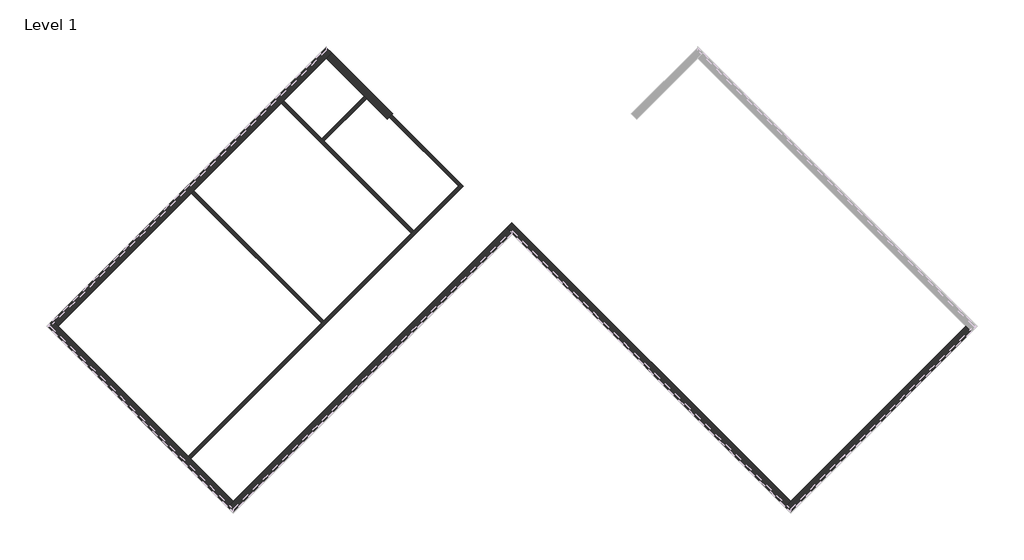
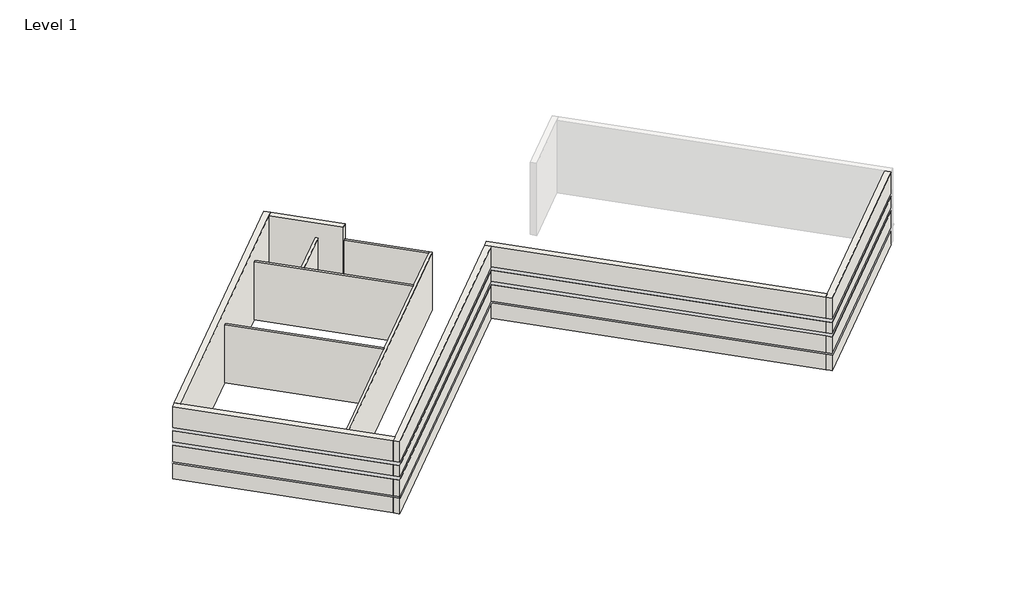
# One storey, part 1 of 2: 11 walls.
"""IFC4 building model written with IfcOpenShell, lengths in millimetres."""

from ifc_helpers import new_model, si_unit, point, frame, frame_2d, origin, origin_with_axes, place, context, project, spatial, polyline, circle_curve, trimmed, segment, composite_curve, outline, extrude, faceted_brep, element, save
from ifc_brep_helpers import plane_surface, cylinder_surface, revolved_surface, advanced_brep

model = new_model("IFC4")

# Units and contexts
model_context = context("Model", 3, world=origin())
ifc_project = project(units=[si_unit("LENGTHUNIT", "METRE", prefix="MILLI")], contexts=[model_context])

# Site, building, storey
site = spatial("IfcSite", under=ifc_project)
building = spatial("IfcBuilding", under=site)
storey = spatial("IfcBuildingStorey", under=building, Name="Level 1", Elevation=0.0)

# Walls
placement = place(None, origin())
element("IfcWall", 1, ObjectType="Exterior - Split Face and CMU on Mtl. Stud", at=placement, inside=storey, context=model_context, shape_type="Brep", body=[
    faceted_brep([(17611.1998802, -1988.4758079, 0.0), (9488.5582187, -10111.1174694, 0.0), (9239.3561114, -10360.3195767, 0.0), (9239.3561114, -10360.3195767, 1016.0), (9304.4629682, -10295.2127199, 1016.0), (9304.4629682, -10295.2127199, 1085.85), (9239.3561114, -10360.3195767, 1085.85), (9239.3561114, -10360.3195767, 2133.6), (9304.4629682, -10295.2127199, 2133.6), (9304.4629682, -10295.2127199, 2336.8), (9239.3561114, -10360.3195767, 2336.8), (9239.3561114, -10360.3195767, 3048.0), (9304.4629682, -10295.2127199, 3048.0), (9304.4629682, -10295.2127199, 3251.2), (9239.3561114, -10360.3195767, 3251.2), (9239.3561114, -10360.3195767, 4572.0), (9488.5582187, -10111.1174694, 4572.0), (17611.1998802, -1988.4758079, 4572.0), (17860.4019876, -2237.6779152, 4572.0), (9488.5582187, -10609.5216841, 4572.0), (9488.5582187, -10609.5216841, 3251.2), (17860.4019876, -2237.6779152, 3251.2), (9488.5582187, -10609.5216841, 0.0), (17860.4019876, -2237.6779152, 0.0), (17860.4019876, -2237.6779152, 1016.0), (9488.5582187, -10609.5216841, 1016.0), (9488.5582187, -10609.5216841, 1085.85), (17860.4019876, -2237.6779152, 1085.85), (17860.4019876, -2237.6779152, 2133.6), (9488.5582187, -10609.5216841, 2133.6), (9488.5582187, -10609.5216841, 2336.8), (17860.4019876, -2237.6779152, 2336.8), (17860.4019876, -2237.6779152, 3048.0), (9488.5582187, -10609.5216841, 3048.0), (17795.2951307, -2172.5710583, 0.0), (9423.4513619, -10544.4148272, 0.0), (9488.5582187, -10479.3079703, 1016.0), (17795.2951307, -2172.5710583, 1016.0), (17795.2951307, -2172.5710583, 1085.85), (9488.5582187, -10479.3079703, 1085.85), (9488.5582187, -10479.3079703, 2133.6), (17795.2951307, -2172.5710583, 2133.6), (17795.2951307, -2172.5710583, 2336.8), (9488.5582187, -10479.3079703, 2336.8), (9488.5582187, -10479.3079703, 3251.2), (9488.5582187, -10479.3079703, 3048.0), (17795.2951307, -2172.5710583, 3048.0), (17795.2951307, -2172.5710583, 3251.2)], [[[0, 1, 2, 3, 4, 5, 6, 7, 8, 9, 10, 11, 12, 13, 14, 15, 16, 17]], [[18, 19, 20, 21]], [[22, 23, 24, 25]], [[26, 27, 28, 29]], [[30, 31, 32, 33]], [[17, 16, 15, 19, 18]], [[2, 1, 0, 34, 35]], [[36, 37, 38, 39]], [[40, 41, 42, 43]], [[44, 45, 46, 47]], [[0, 17, 18, 21, 47, 46, 32, 31, 42, 41, 28, 27, 38, 37, 24, 23, 34]], [[23, 22, 35, 34]], [[39, 38, 27, 26, 6, 5]], [[37, 36, 4, 3, 25, 24]], [[41, 40, 8, 7, 29, 28]], [[43, 42, 31, 30, 10, 9]], [[46, 45, 12, 11, 33, 32]], [[13, 44, 47, 21, 20, 14]], [[19, 15, 14, 20]], [[2, 35, 22, 25, 3]], [[6, 26, 29, 7]], [[10, 30, 33, 11]], [[36, 39, 5, 4]], [[40, 43, 9, 8]], [[45, 44, 13, 12]]]),
])
element("IfcWall", 2, ObjectType="Exterior - Split Face and CMU on Mtl. Stud", at=placement, inside=storey, context=model_context, shape_type="Brep", body=[
    faceted_brep([(9488.5582187, -10111.1174694, 0.0), (-3443.0105956, 2820.451345, 0.0), (-3443.0105956, 2820.451345, 4572.0), (9488.5582187, -10111.1174694, 4572.0), (9239.3561114, -10360.3195767, 4572.0), (-3443.0105956, 2322.0471303, 4572.0), (-3692.212703, 2571.2492376, 4572.0), (-3692.212703, 2571.2492376, 0.0), (-3443.0105956, 2322.0471303, 0.0), (9239.3561114, -10360.3195767, 0.0), (9239.3561114, -10360.3195767, 1016.0), (-3443.0105956, 2322.0471303, 1016.0), (-3508.1174525, 2387.1539871, 1016.0), (-3508.1174525, 2387.1539871, 1085.85), (-3443.0105956, 2322.0471303, 1085.85), (9239.3561114, -10360.3195767, 1085.85), (9239.3561114, -10360.3195767, 2133.6), (-3443.0105956, 2322.0471303, 2133.6), (-3508.1174525, 2387.1539871, 2133.6), (-3508.1174525, 2387.1539871, 2336.8), (-3443.0105956, 2322.0471303, 2336.8), (9239.3561114, -10360.3195767, 2336.8), (9239.3561114, -10360.3195767, 3048.0), (-3443.0105956, 2322.0471303, 3048.0), (-3508.1174525, 2387.1539871, 3048.0), (-3508.1174525, 2387.1539871, 3251.2), (-3443.0105956, 2322.0471303, 3251.2), (9239.3561114, -10360.3195767, 3251.2), (9304.4629682, -10295.2127199, 0.0), (-3627.1058461, 2636.3560945, 0.0), (-3443.0105956, 2452.260844, 1016.0), (9304.4629682, -10295.2127199, 1016.0), (9304.4629682, -10295.2127199, 1085.85), (-3443.0105956, 2452.260844, 1085.85), (-3443.0105956, 2452.260844, 2133.6), (9304.4629682, -10295.2127199, 2133.6), (9304.4629682, -10295.2127199, 2336.8), (-3443.0105956, 2452.260844, 2336.8), (-3443.0105956, 2452.260844, 3251.2), (-3443.0105956, 2452.260844, 3048.0), (9304.4629682, -10295.2127199, 3048.0), (9304.4629682, -10295.2127199, 3251.2)], [[[0, 1, 2, 3]], [[4, 5, 6, 7, 8, 9, 10, 11, 12, 13, 14, 15, 16, 17, 18, 19, 20, 21, 22, 23, 24, 25, 26, 27]], [[3, 2, 6, 5, 4]], [[1, 0, 28, 29]], [[30, 31, 32, 33]], [[34, 35, 36, 37]], [[38, 39, 40, 41]], [[0, 3, 4, 27, 41, 40, 22, 21, 36, 35, 16, 15, 32, 31, 10, 9, 28]], [[9, 8, 7, 29, 28]], [[33, 32, 15, 14, 13]], [[31, 30, 12, 11, 10]], [[35, 34, 18, 17, 16]], [[37, 36, 21, 20, 19]], [[40, 39, 24, 23, 22]], [[25, 38, 41, 27, 26]], [[2, 1, 29, 7, 6]], [[30, 33, 13, 12]], [[34, 37, 19, 18]], [[39, 38, 25, 24]]]),
])
element("IfcWall", 3, ObjectType="Exterior - Split Face and CMU on Mtl. Stud", at=placement, inside=storey, context=model_context, shape_type="Brep", body=[
    faceted_brep([(-3692.212703, 2571.2492376, 0.0), (-16374.5794099, -10111.1174694, 0.0), (-16623.7815173, -10360.3195767, 0.0), (-16623.7815173, -10360.3195767, 1016.0), (-16558.6746604, -10295.2127199, 1016.0), (-16558.6746604, -10295.2127199, 1085.85), (-16623.7815173, -10360.3195767, 1085.85), (-16623.7815173, -10360.3195767, 2133.6), (-16558.6746604, -10295.2127199, 2133.6), (-16558.6746604, -10295.2127199, 2336.8), (-16623.7815173, -10360.3195767, 2336.8), (-16623.7815173, -10360.3195767, 3048.0), (-16558.6746604, -10295.2127199, 3048.0), (-16558.6746604, -10295.2127199, 3251.2), (-16623.7815173, -10360.3195767, 3251.2), (-16623.7815173, -10360.3195767, 4572.0), (-16374.5794099, -10111.1174694, 4572.0), (-3692.212703, 2571.2492376, 4572.0), (-3443.0105956, 2322.0471303, 4572.0), (-16374.5794099, -10609.5216841, 4572.0), (-16374.5794099, -10609.5216841, 3251.2), (-3443.0105956, 2322.0471303, 3251.2), (-16374.5794099, -10609.5216841, 0.0), (-3443.0105956, 2322.0471303, 0.0), (-3443.0105956, 2322.0471303, 1016.0), (-16374.5794099, -10609.5216841, 1016.0), (-16374.5794099, -10609.5216841, 1085.85), (-3443.0105956, 2322.0471303, 1085.85), (-3443.0105956, 2322.0471303, 2133.6), (-16374.5794099, -10609.5216841, 2133.6), (-16374.5794099, -10609.5216841, 2336.8), (-3443.0105956, 2322.0471303, 2336.8), (-3443.0105956, 2322.0471303, 3048.0), (-16374.5794099, -10609.5216841, 3048.0), (-3508.1174525, 2387.1539871, 0.0), (-16439.6862668, -10544.4148272, 0.0), (-16374.5794099, -10479.3079703, 1016.0), (-3508.1174525, 2387.1539871, 1016.0), (-3508.1174525, 2387.1539871, 1085.85), (-16374.5794099, -10479.3079703, 1085.85), (-16374.5794099, -10479.3079703, 2133.6), (-3508.1174525, 2387.1539871, 2133.6), (-3508.1174525, 2387.1539871, 2336.8), (-16374.5794099, -10479.3079703, 2336.8), (-16374.5794099, -10479.3079703, 3251.2), (-16374.5794099, -10479.3079703, 3048.0), (-3508.1174525, 2387.1539871, 3048.0), (-3508.1174525, 2387.1539871, 3251.2)], [[[0, 1, 2, 3, 4, 5, 6, 7, 8, 9, 10, 11, 12, 13, 14, 15, 16, 17]], [[18, 19, 20, 21]], [[22, 23, 24, 25]], [[26, 27, 28, 29]], [[30, 31, 32, 33]], [[17, 16, 15, 19, 18]], [[2, 1, 0, 34, 35]], [[36, 37, 38, 39]], [[40, 41, 42, 43]], [[44, 45, 46, 47]], [[0, 17, 18, 21, 47, 46, 32, 31, 42, 41, 28, 27, 38, 37, 24, 23, 34]], [[23, 22, 35, 34]], [[39, 38, 27, 26, 6, 5]], [[37, 36, 4, 3, 25, 24]], [[41, 40, 8, 7, 29, 28]], [[43, 42, 31, 30, 10, 9]], [[46, 45, 12, 11, 33, 32]], [[13, 44, 47, 21, 20, 14]], [[19, 15, 14, 20]], [[2, 35, 22, 25, 3]], [[6, 26, 29, 7]], [[10, 30, 33, 11]], [[36, 39, 5, 4]], [[40, 43, 9, 8]], [[45, 44, 13, 12]]]),
])
element("IfcWall", 4, ObjectType="Exterior - Split Face and CMU on Mtl. Stud", at=placement, inside=storey, context=model_context, shape_type="Brep", body=[
    faceted_brep([(-16374.5794099, -10111.1174694, 0.0), (-18350.2357566, -8135.4611227, 0.0), (-18460.2438941, -8025.4529853, 0.0), (-24497.2210715, -1988.4758079, 0.0), (-24746.4231788, -1739.2737005, 0.0), (-24746.4231788, -1739.2737005, 1016.0), (-24681.3163219, -1804.3805574, 1016.0), (-24681.3163219, -1804.3805574, 1085.85), (-24746.4231788, -1739.2737005, 1085.85), (-24746.4231788, -1739.2737005, 2133.6), (-24681.3163219, -1804.3805574, 2133.6), (-24681.3163219, -1804.3805574, 2336.8), (-24746.4231788, -1739.2737005, 2336.8), (-24746.4231788, -1739.2737005, 3048.0), (-24681.3163219, -1804.3805574, 3048.0), (-24681.3163219, -1804.3805574, 3251.2), (-24746.4231788, -1739.2737005, 3251.2), (-24746.4231788, -1739.2737005, 4572.0), (-24497.2210715, -1988.4758079, 4572.0), (-16374.5794099, -10111.1174694, 4572.0), (-16623.7815173, -10360.3195767, 4572.0), (-24995.6252862, -1988.4758079, 4572.0), (-24995.6252862, -1988.4758079, 3251.2), (-16623.7815173, -10360.3195767, 3251.2), (-24995.6252862, -1988.4758079, 0.0), (-16623.7815173, -10360.3195767, 0.0), (-16623.7815173, -10360.3195767, 1016.0), (-24995.6252862, -1988.4758079, 1016.0), (-24995.6252862, -1988.4758079, 1085.85), (-16623.7815173, -10360.3195767, 1085.85), (-16623.7815173, -10360.3195767, 2133.6), (-24995.6252862, -1988.4758079, 2133.6), (-24995.6252862, -1988.4758079, 2336.8), (-16623.7815173, -10360.3195767, 2336.8), (-16623.7815173, -10360.3195767, 3048.0), (-24995.6252862, -1988.4758079, 3048.0), (-16558.6746604, -10295.2127199, 0.0), (-24930.5184293, -1923.368951, 0.0), (-24865.4115724, -1988.4758079, 1016.0), (-16558.6746604, -10295.2127199, 1016.0), (-16558.6746604, -10295.2127199, 1085.85), (-24865.4115724, -1988.4758079, 1085.85), (-24865.4115724, -1988.4758079, 2133.6), (-16558.6746604, -10295.2127199, 2133.6), (-16558.6746604, -10295.2127199, 2336.8), (-24865.4115724, -1988.4758079, 2336.8), (-24865.4115724, -1988.4758079, 3251.2), (-24865.4115724, -1988.4758079, 3048.0), (-16558.6746604, -10295.2127199, 3048.0), (-16558.6746604, -10295.2127199, 3251.2)], [[[0, 1, 2, 3, 4, 5, 6, 7, 8, 9, 10, 11, 12, 13, 14, 15, 16, 17, 18, 19]], [[20, 21, 22, 23]], [[24, 25, 26, 27]], [[28, 29, 30, 31]], [[32, 33, 34, 35]], [[19, 18, 17, 21, 20]], [[4, 3, 2, 1, 0, 36, 37]], [[38, 39, 40, 41]], [[42, 43, 44, 45]], [[46, 47, 48, 49]], [[0, 19, 20, 23, 49, 48, 34, 33, 44, 43, 30, 29, 40, 39, 26, 25, 36]], [[25, 24, 37, 36]], [[41, 40, 29, 28, 8, 7]], [[39, 38, 6, 5, 27, 26]], [[43, 42, 10, 9, 31, 30]], [[45, 44, 33, 32, 12, 11]], [[48, 47, 14, 13, 35, 34]], [[15, 46, 49, 23, 22, 16]], [[21, 17, 16, 22]], [[4, 37, 24, 27, 5]], [[8, 28, 31, 9]], [[12, 32, 35, 13]], [[38, 41, 7, 6]], [[42, 45, 11, 10]], [[47, 46, 15, 14]]]),
])
element("IfcWall", 5, ObjectType="Exterior - Split Face and CMU on Mtl. Stud", at=placement, inside=storey, context=model_context, shape_type="Brep", body=[
    faceted_brep([(-24497.2210715, -1988.4758079, 0.0), (-18318.8048602, 4189.9404034, 0.0), (-18208.7967227, 4299.9485409, 0.0), (-14149.720956, 8359.0243076, 0.0), (-14039.7128185, 8469.0324451, 0.0), (-12064.0564718, 10444.6887918, 0.0), (-11814.8543645, 10693.8908991, 0.0), (-11814.8543645, 10693.8908991, 1016.0), (-11879.9612214, 10628.7840422, 1016.0), (-11879.9612214, 10628.7840422, 1085.85), (-11814.8543645, 10693.8908991, 1085.85), (-11814.8543645, 10693.8908991, 2133.6), (-11879.9612214, 10628.7840422, 2133.6), (-11879.9612214, 10628.7840422, 2336.8), (-11814.8543645, 10693.8908991, 2336.8), (-11814.8543645, 10693.8908991, 3048.0), (-11879.9612214, 10628.7840422, 3048.0), (-11879.9612214, 10628.7840422, 3251.2), (-11814.8543645, 10693.8908991, 3251.2), (-11814.8543645, 10693.8908991, 4572.0), (-12064.0564718, 10444.6887918, 4572.0), (-24497.2210715, -1988.4758079, 4572.0), (-24746.4231788, -1739.2737005, 4572.0), (-12064.0564718, 10943.0930065, 4572.0), (-12064.0564718, 10943.0930065, 3251.2), (-24746.4231788, -1739.2737005, 3251.2), (-12064.0564718, 10943.0930065, 0.0), (-24746.4231788, -1739.2737005, 0.0), (-24746.4231788, -1739.2737005, 1016.0), (-12064.0564718, 10943.0930065, 1016.0), (-12064.0564718, 10943.0930065, 1085.85), (-24746.4231788, -1739.2737005, 1085.85), (-24746.4231788, -1739.2737005, 2133.6), (-12064.0564718, 10943.0930065, 2133.6), (-12064.0564718, 10943.0930065, 2336.8), (-24746.4231788, -1739.2737005, 2336.8), (-24746.4231788, -1739.2737005, 3048.0), (-12064.0564718, 10943.0930065, 3048.0), (-24681.3163219, -1804.3805574, 0.0), (-11998.949615, 10877.9861496, 0.0), (-12064.0564718, 10812.8792927, 1016.0), (-24681.3163219, -1804.3805574, 1016.0), (-24681.3163219, -1804.3805574, 1085.85), (-12064.0564718, 10812.8792927, 1085.85), (-12064.0564718, 10812.8792927, 2133.6), (-24681.3163219, -1804.3805574, 2133.6), (-24681.3163219, -1804.3805574, 2336.8), (-12064.0564718, 10812.8792927, 2336.8), (-12064.0564718, 10812.8792927, 3251.2), (-12064.0564718, 10812.8792927, 3048.0), (-24681.3163219, -1804.3805574, 3048.0), (-24681.3163219, -1804.3805574, 3251.2)], [[[0, 1, 2, 3, 4, 5, 6, 7, 8, 9, 10, 11, 12, 13, 14, 15, 16, 17, 18, 19, 20, 21]], [[22, 23, 24, 25]], [[26, 27, 28, 29]], [[30, 31, 32, 33]], [[34, 35, 36, 37]], [[21, 20, 19, 23, 22]], [[6, 5, 4, 3, 2, 1, 0, 38, 39]], [[40, 41, 42, 43]], [[44, 45, 46, 47]], [[48, 49, 50, 51]], [[0, 21, 22, 25, 51, 50, 36, 35, 46, 45, 32, 31, 42, 41, 28, 27, 38]], [[27, 26, 39, 38]], [[43, 42, 31, 30, 10, 9]], [[41, 40, 8, 7, 29, 28]], [[45, 44, 12, 11, 33, 32]], [[47, 46, 35, 34, 14, 13]], [[50, 49, 16, 15, 37, 36]], [[17, 48, 51, 25, 24, 18]], [[23, 19, 18, 24]], [[6, 39, 26, 29, 7]], [[10, 30, 33, 11]], [[14, 34, 37, 15]], [[40, 43, 9, 8]], [[44, 47, 13, 12]], [[49, 48, 17, 16]]]),
])
element("IfcWall", 6, ObjectType="Exterior - Split Face and CMU on Mtl. Stud", at=placement, inside=storey, context=model_context, shape_type="AdvancedBrep", body=[
    advanced_brep(
    [(-12064.0564718, 10444.6887918, 0.0), (-10303.9262721, 8684.558592, 0.0), (-10193.9181346, 8574.5504545, 0.0), (-9232.9945042, 7613.6268242, 0.0), (-9232.9945042, 7613.6268242, 4572.0), (-12064.0564718, 10444.6887918, 4572.0), (-11814.8543645, 10693.8908991, 4572.0), (-9237.4684553, 8116.50499, 4572.0), (-8988.2640035, 7867.3005381, 4572.0), (-8988.2640035, 7867.3005381, 0.0), (-9237.4684553, 8116.50499, 0.0), (-11814.8543645, 10693.8908991, 0.0), (-11814.8543645, 10693.8908991, 1016.0), (-9237.4684553, 8116.50499, 1016.0), (-9172.3610055, 8051.3975402, 1016.0), (-9172.3610055, 8051.3975402, 1085.85), (-9237.4684553, 8116.50499, 1085.85), (-11814.8543645, 10693.8908991, 1085.85), (-11814.8543645, 10693.8908991, 2133.6), (-9237.4684553, 8116.50499, 2133.6), (-9172.3610055, 8051.3975402, 2133.6), (-9172.3610055, 8051.3975402, 2336.8), (-9237.4684553, 8116.50499, 2336.8), (-11814.8543645, 10693.8908991, 2336.8), (-11814.8543645, 10693.8908991, 3048.0), (-9237.4684553, 8116.50499, 3048.0), (-9172.3610055, 8051.3975402, 3048.0), (-9172.3610055, 8051.3975402, 3251.2), (-9237.4684553, 8116.50499, 3251.2), (-11814.8543645, 10693.8908991, 3251.2), (-11879.9612214, 10628.7840422, 0.0), (-9053.2790111, 7802.1018319, 0.0), (-9132.9267624, 7720.1083444, 0.0), (-9237.3789518, 7986.2017727, 1016.0), (-11879.9612214, 10628.7840422, 1016.0), (-11879.9612214, 10628.7840422, 1085.85), (-9237.3789518, 7986.2017727, 1085.85), (-9237.3789518, 7986.2017727, 2133.6), (-11879.9612214, 10628.7840422, 2133.6), (-11879.9612214, 10628.7840422, 2336.8), (-9237.3789518, 7986.2017727, 2336.8), (-9237.3789518, 7986.2017727, 3251.2), (-9237.3789518, 7986.2017727, 3048.0), (-11879.9612214, 10628.7840422, 3048.0), (-11879.9612214, 10628.7840422, 3251.2), (-9024.2284446, 7831.4229682, 0.0)],
    [
        (0, 1),
        (1, 2),
        (2, 3),
        (3, 4),
        (4, 5),
        (5, 0),
        (6, 7),
        (7, 8),
        (8, 9),
        (9, 10),
        (10, 11),
        (11, 12),
        (12, 13),
        (13, 14),
        (14, 15),
        (15, 16),
        (16, 17),
        (17, 18),
        (18, 19),
        (19, 20),
        (20, 21),
        (21, 22),
        (22, 23),
        (23, 24),
        (24, 25),
        (25, 26),
        (26, 27),
        (27, 28),
        (28, 29),
        (29, 6),
        (4, 8, circle_curve(frame((-3443.0105956, 2272.6557216, 4572.0), z_axis=(0.0, 0.0, -1.0), x_axis=(1.0, 0.0, 0.0)), 7877.175)),
        (6, 5),
        (0, 30),
        (30, 31),
        (31, 32, circle_curve(frame((-3443.0105956, 2272.6557216, 0.0), z_axis=(0.0, 0.0, 1.0), x_axis=(1.0, 0.0, 0.0)), 7877.175)),
        (32, 3, circle_curve(frame((-3443.0105956, 2272.6557216, 0.0), z_axis=(0.0, 0.0, 1.0), x_axis=(1.0, 0.0, 0.0)), 7877.1750052)),
        (33, 34),
        (34, 35),
        (35, 36),
        (36, 33),
        (37, 38),
        (38, 39),
        (39, 40),
        (40, 37),
        (41, 42),
        (42, 43),
        (43, 44),
        (44, 41),
        (29, 44),
        (43, 24),
        (23, 39),
        (38, 18),
        (17, 35),
        (34, 12),
        (11, 30),
        (9, 45, circle_curve(frame((-3443.0105956, 2272.6557216, 0.0), z_axis=(0.0, 0.0, 1.0), x_axis=(1.0, 0.0, 0.0)), 7877.175)),
        (45, 31, circle_curve(frame((-3443.0105956, 2272.6557216, 0.0), z_axis=(0.0, 0.0, 1.0), x_axis=(1.0, 0.0, 0.0)), 7877.175)),
        (15, 36, circle_curve(frame((-3443.0105956, 2272.6557216, 1085.85), z_axis=(0.0, 0.0, 1.0), x_axis=(-0.7040995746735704, 0.7101012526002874, 0.0)), 8137.525)),
        (33, 14, circle_curve(frame((-3443.0105956, 2272.6557216, 1016.0), z_axis=(0.0, 0.0, -1.0), x_axis=(-0.7040995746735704, 0.7101012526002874, 0.0)), 8137.525)),
        (37, 20, circle_curve(frame((-3443.0105956, 2272.6557216, 2133.6), z_axis=(0.0, 0.0, -1.0), x_axis=(-0.712055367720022, 0.7021233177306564, 0.0)), 8137.525)),
        (40, 21, circle_curve(frame((-3443.0105956, 2272.6557216, 2336.8), z_axis=(0.0, 0.0, -1.0), x_axis=(-0.712055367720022, 0.7021233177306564, 0.0)), 8137.525)),
        (42, 26, circle_curve(frame((-3443.0105956, 2272.6557216, 3048.0), z_axis=(0.0, 0.0, -1.0), x_axis=(-0.712055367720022, 0.7021233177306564, 0.0)), 8137.525)),
        (41, 27, circle_curve(frame((-3443.0105956, 2272.6557216, 3251.2), z_axis=(0.0, 0.0, -1.0), x_axis=(-0.712055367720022, 0.7021233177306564, 0.0)), 8137.525)),
    ],
    [
        plane_surface(frame((-12313.2585792, 10693.8908991, 0.0), z_axis=(-0.707106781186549, -0.7071067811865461, 0.0), x_axis=(0.7071067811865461, -0.707106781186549, 0.0))),
        plane_surface(frame((-12064.0564718, 10943.0930065, 0.0), z_axis=(0.707106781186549, 0.7071067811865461, 0.0), x_axis=(-0.7071067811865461, 0.707106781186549, 0.0))),
        plane_surface(frame((-9361.2454813, 7741.8778012, 4572.0), z_axis=(0.0, 0.0, 1.0), x_axis=(0.7071067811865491, 0.707106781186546, 0.0))),
        plane_surface(frame((-12188.6575255, 10569.2898454, 0.0), z_axis=(0.0, 0.0, -1.0), x_axis=(0.7071067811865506, 0.7071067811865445, 0.0))),
        plane_surface(frame((-12064.0564718, 10812.8792927, 1016.0), z_axis=(0.707106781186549, 0.707106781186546, 0.0), x_axis=(0.707106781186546, -0.707106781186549, 0.0))),
        plane_surface(frame((-12064.0564718, 10812.8792927, 2133.6), z_axis=(0.7071067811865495, 0.7071067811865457, 0.0), x_axis=(0.7071067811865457, -0.7071067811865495, 0.0))),
        plane_surface(frame((-12064.0564718, 10812.8792927, 3048.0), z_axis=(0.7071067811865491, 0.7071067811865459, 0.0), x_axis=(0.7071067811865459, -0.7071067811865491, 0.0))),
        plane_surface(frame((-24746.4231788, -2237.6779152, 0.0), z_axis=(-0.7071067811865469, 0.7071067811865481, 0.0), x_axis=(0.7071067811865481, 0.7071067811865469, 0.0))),
        plane_surface(frame((0.0, 0.0, 0.0), z_axis=(0.0, 0.0, -1.0), x_axis=(1.0, 0.0, 0.0))),
        plane_surface(frame((-3443.0105956, 2272.6557216, 1085.85), z_axis=(0.0, 0.0, -1.0), x_axis=(-0.7040995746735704, 0.7101012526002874, 0.0))),
        plane_surface(frame((-3443.0105956, 2272.6557216, 1016.0), z_axis=(0.0, 0.0, 1.0), x_axis=(-0.7040995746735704, 0.7101012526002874, 0.0))),
        cylinder_surface(frame((-3443.0105956, 2272.6557216, 1016.0), z_axis=(0.0, 0.0, -1.0), x_axis=(-0.7040995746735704, 0.7101012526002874, 0.0)), 8137.525),
        plane_surface(frame((-3443.0105956, 2272.6557216, 2133.6), z_axis=(0.0, 0.0, 1.0), x_axis=(-0.712055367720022, 0.7021233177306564, 0.0))),
        cylinder_surface(frame((-3443.0105956, 2272.6557216, 2133.6), z_axis=(0.0, 0.0, -1.0), x_axis=(-0.712055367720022, 0.7021233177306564, 0.0)), 8137.525),
        plane_surface(frame((-3443.0105956, 2272.6557216, 2336.8), z_axis=(0.0, 0.0, -1.0), x_axis=(-0.712055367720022, 0.7021233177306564, 0.0))),
        plane_surface(frame((-3443.0105956, 2272.6557216, 3048.0), z_axis=(0.0, 0.0, 1.0), x_axis=(-0.712055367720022, 0.7021233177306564, 0.0))),
        cylinder_surface(frame((-3443.0105956, 2272.6557216, 3048.0), z_axis=(0.0, 0.0, -1.0), x_axis=(-0.712055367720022, 0.7021233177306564, 0.0)), 8137.525),
        plane_surface(frame((-3443.0105956, 2272.6557216, 3251.2), z_axis=(0.0, 0.0, -1.0), x_axis=(-0.712055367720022, 0.7021233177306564, 0.0))),
        revolved_surface(polyline([(4434.1644044, 2272.6557216, 0.0), (4434.1644044, 2272.6557216, 4572.0)]), (-3443.0105956, 2272.6557216, 0.0), (0.0, 0.0, -1.0)),
    ],
    [
        (0, [[1, 2, 3, 4, 5, 6]]),
        (1, [[7, 8, 9, 10, 11, 12, 13, 14, 15, 16, 17, 18, 19, 20, 21, 22, 23, 24, 25, 26, 27, 28, 29, 30]]),
        (2, [[-5, 31, -8, -7, 32]]),
        (3, [[-3, -2, -1, 33, 34, 35, 36]]),
        (4, [[37, 38, 39, 40]]),
        (5, [[41, 42, 43, 44]]),
        (6, [[45, 46, 47, 48]]),
        (7, [[-6, -32, -30, 49, -47, 50, -24, 51, -42, 52, -18, 53, -38, 54, -12, 55, -33]]),
        (8, [[-11, -10, 56, 57, -34, -55]]),
        (9, [[-39, -53, -17, -16, 58]]),
        (10, [[-37, 59, -14, -13, -54]]),
        (11, [[-40, -58, -15, -59]]),
        (12, [[-41, 60, -20, -19, -52]]),
        (13, [[-44, 61, -21, -60]]),
        (14, [[-43, -51, -23, -22, -61]]),
        (15, [[-46, 62, -26, -25, -50]]),
        (16, [[-45, 63, -27, -62]]),
        (17, [[-63, -48, -49, -29, -28]]),
        (18, [[-31, -4, -36, -35, -57, -56, -9]]),
    ],
),
])
element("IfcWall", 7, ObjectType="Interior - 6 1/8\" Partition (2-hr)", at=placement, inside=storey, context=model_context, shape_type="Brep", body=[
    faceted_brep([(-18350.2357566, -8135.4611227, 0.0), (-5703.7900741, 4510.9845598, 0.0), (-5703.7900741, 4510.9845598, 3657.6), (-18350.2357566, -8135.4611227, 3657.6), (-18460.2438941, -8025.4529853, 0.0), (-18460.2438941, -8025.4529853, 3657.6), (-12281.8276828, -1847.036774, 3657.6), (-12171.8195453, -1737.0286365, 3657.6), (-8112.7437786, 2322.0471303, 3657.6), (-8002.7356411, 2432.0552677, 3657.6), (-5923.8063491, 4510.9845598, 3657.6), (-5813.7982116, 4620.9926972, 3657.6), (-5813.7982116, 4620.9926972, 0.0), (-5923.8063491, 4510.9845598, 0.0), (-8002.7356411, 2432.0552677, 0.0), (-8112.7437786, 2322.0471303, 0.0), (-12171.8195453, -1737.0286365, 0.0), (-12281.8276828, -1847.036774, 0.0)], [[[0, 1, 2, 3]], [[4, 5, 6, 7, 8, 9, 10, 11, 12, 13, 14, 15, 16, 17]], [[1, 0, 4, 17, 16, 15, 14, 13, 12]], [[3, 2, 11, 10, 9, 8, 7, 6, 5]], [[0, 3, 5, 4]], [[2, 1, 12, 11]]]),
])
element("IfcWall", 8, ObjectType="Interior - 6 1/8\" Partition (2-hr)", at=placement, inside=storey, context=model_context, shape_type="SweptSolid", body=[
    extrude(outline(composite_curve([segment(polyline([(-9024.2284636, 7831.4229492), (-5813.7982116, 4620.9926972), (-5923.8063491, 4510.9845598), (-9132.9284077, 7720.1066184)]), True, "CONTINUOUS"), segment(trimmed(circle_curve(frame_2d((-3443.0105956, 2272.6557216)), 7877.175), [point((-9132.9284077, 7720.1066184))], [point((-9024.2284636, 7831.4229492))], False, "CARTESIAN"), True, "CONTINUOUS")], self_intersect=False)), origin_with_axes(), (0.0, 0.0, 1.0), 3657.6),
])
element("IfcWall", 9, ObjectType="Interior - 6 1/8\" Partition (2-hr)", at=placement, inside=storey, context=model_context, shape_type="Brep", body=[
    faceted_brep([(-8002.7356411, 2432.0552677, 0.0), (-12169.5744813, 6598.8941079, 0.0), (-12279.5826187, 6708.9022454, 0.0), (-14039.7128185, 8469.0324451, 0.0), (-14039.7128185, 8469.0324451, 3657.6), (-12279.5826187, 6708.9022454, 3657.6), (-12169.5744813, 6598.8941079, 3657.6), (-8002.7356411, 2432.0552677, 3657.6), (-8112.7437786, 2322.0471303, 0.0), (-8112.7437786, 2322.0471303, 3657.6), (-14149.720956, 8359.0243076, 3657.6), (-14149.720956, 8359.0243076, 0.0)], [[[0, 1, 2, 3, 4, 5, 6, 7]], [[8, 9, 10, 11]], [[3, 2, 1, 0, 8, 11]], [[7, 6, 5, 4, 10, 9]], [[4, 3, 11, 10]], [[0, 7, 9, 8]]]),
])
element("IfcWall", 10, ObjectType="Interior - 6 1/8\" Partition (2-hr)", at=placement, inside=storey, context=model_context, shape_type="SweptSolid", body=[
    extrude(outline(polyline([(-10193.9181346, 8574.5504545), (-12169.5744813, 6598.8941079), (-12279.5826187, 6708.9022454), (-10303.9262721, 8684.558592), (-10193.9181346, 8574.5504545)])), origin_with_axes(), (0.0, 0.0, 1.0), 3657.6),
])
element("IfcWall", 11, ObjectType="Interior - 6 1/8\" Partition (2-hr)", at=placement, inside=storey, context=model_context, shape_type="SweptSolid", body=[
    extrude(outline(polyline([(-18208.7967227, 4299.9485409), (-12171.8195453, -1737.0286365), (-12281.8276828, -1847.036774), (-18318.8048602, 4189.9404034), (-18208.7967227, 4299.9485409)])), origin_with_axes(), (0.0, 0.0, 1.0), 3657.6),
])

save(model, "model.ifc")
